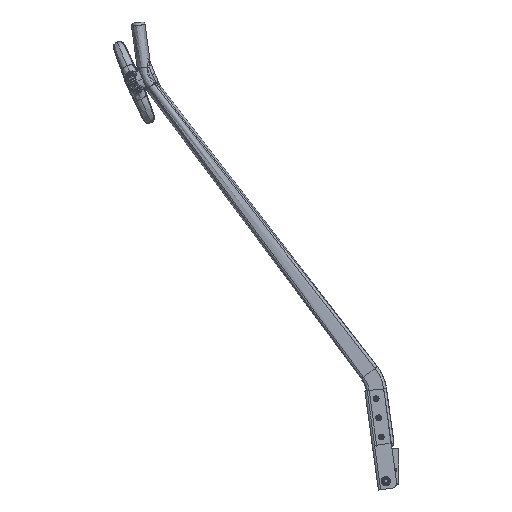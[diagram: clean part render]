
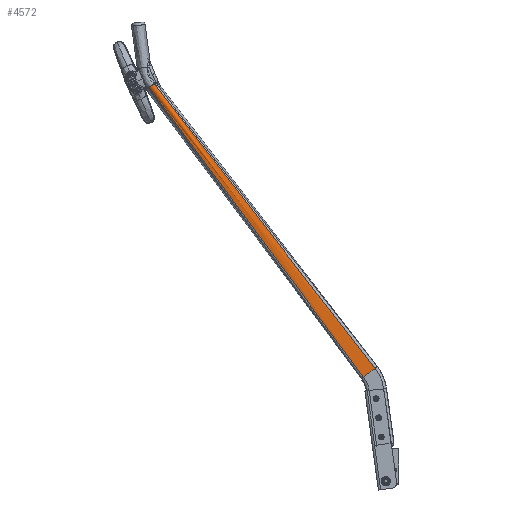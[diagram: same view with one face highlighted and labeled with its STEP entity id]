
A CAD part, left-side view. The second image highlights one B-rep face of the part: STEP entity #4572.
In plain terms, the highlighted free-form (B-spline) face has degree [3, 3] with [6, 5] control points.
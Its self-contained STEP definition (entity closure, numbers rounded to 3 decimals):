
#601 = CARTESIAN_POINT ( 'NONE',  ( 21.63, 427.979, -856.091 ) ) ;
#604 = B_SPLINE_SURFACE_WITH_KNOTS ( 'NONE', 3, 3, ( 
 ( #44025, #49540, #16858, #55046, #22340 ),
 ( #60542, #27834, #66059, #33316, #601 ),
 ( #38801, #6115, #44260, #11616, #49788 ),
 ( #17096, #55276, #22579, #60791, #28065 ),
 ( #66279, #33560, #838, #39023, #6353 ),
 ( #44503, #11844, #50014, #17331, #55525 ) ),
 .UNSPECIFIED., .F., .F., .F.,
 ( 4, 2, 4 ),
 ( 4, 1, 4 ),
 ( 0., 0.5, 1. ),
 ( 0., 0.56, 1. ),
 .UNSPECIFIED. ) ;
#742 = VECTOR ( 'NONE', #26256, 1000. ) ;
#838 = CARTESIAN_POINT ( 'NONE',  ( 25.896, 229.258, -530.558 ) ) ;
#4572 = ADVANCED_FACE ( 'NONE', ( #12753 ), #604, .T. ) ;
#6115 = CARTESIAN_POINT ( 'NONE',  ( 29.219, 110.1, -293.603 ) ) ;
#6353 = CARTESIAN_POINT ( 'NONE',  ( 21.63, 419.747, -860.849 ) ) ;
#9085 = B_SPLINE_CURVE_WITH_KNOTS ( 'NONE', 3,
 ( #49945, #12010, #55686, #22969, #61191 ),
 .UNSPECIFIED., .F., .F.,
 ( 4, 1, 4 ),
 ( 0., 0.56, 1. ),
 .UNSPECIFIED. ) ;
#11350 = CARTESIAN_POINT ( 'NONE',  ( 19.892, 429.858, -855.005 ) ) ;
#11377 = VERTEX_POINT ( 'NONE', #34695 ) ;
#11616 = CARTESIAN_POINT ( 'NONE',  ( 23.717, 369.013, -755.609 ) ) ;
#11844 = CARTESIAN_POINT ( 'NONE',  ( 28.646, 93.364, -303.275 ) ) ;
#12010 = CARTESIAN_POINT ( 'NONE',  ( 28.646, 93.364, -303.275 ) ) ;
#12753 = FACE_OUTER_BOUND ( 'NONE', #50817, .T. ) ;
#13594 = LINE ( 'NONE', #58978, #742 ) ;
#16858 = CARTESIAN_POINT ( 'NONE',  ( 24.888, 246.221, -520.755 ) ) ;
#17096 = CARTESIAN_POINT ( 'NONE',  ( 30.75, 28.262, -169.64 ) ) ;
#17331 = CARTESIAN_POINT ( 'NONE',  ( 21.418, 359.297, -761.224 ) ) ;
#18100 = EDGE_CURVE ( 'NONE', #34971, #31145, #25348, .T. ) ;
#21144 = B_SPLINE_CURVE_WITH_KNOTS ( 'NONE', 3,
 ( #50562, #56531, #57005, #24292, #62532 ),
 .UNSPECIFIED., .F., .F.,
 ( 4, 1, 4 ),
 ( 0., 0.56, 1. ),
 .UNSPECIFIED. ) ;
#21676 = CARTESIAN_POINT ( 'NONE',  ( 30.75, 18.988, -175. ) ) ;
#22340 = CARTESIAN_POINT ( 'NONE',  ( 19.891, 429.858, -855.006 ) ) ;
#22579 = CARTESIAN_POINT ( 'NONE',  ( 26.485, 232.724, -528.555 ) ) ;
#22969 = CARTESIAN_POINT ( 'NONE',  ( 21.418, 359.297, -761.224 ) ) ;
#23679 = VERTEX_POINT ( 'NONE', #21676 ) ;
#24292 = CARTESIAN_POINT ( 'NONE',  ( 21.418, 373.746, -752.873 ) ) ;
#25348 =( BOUNDED_CURVE ( )  B_SPLINE_CURVE ( 3, ( #58413, #30045, #63919, #31186 ),
 .UNSPECIFIED., .F., .T. ) 
 B_SPLINE_CURVE_WITH_KNOTS ( ( 4, 4 ),
 ( 2.662, 3.621 ),
 .UNSPECIFIED. ) 
 CURVE ( )  GEOMETRIC_REPRESENTATION_ITEM ( )  RATIONAL_B_SPLINE_CURVE ( ( 1., 0.925, 0.925, 1. ) ) 
 REPRESENTATION_ITEM ( '' )  );
#26256 = DIRECTION ( 'NONE',  ( 0., 0.866, 0.5 ) ) ;
#27834 = CARTESIAN_POINT ( 'NONE',  ( 29.008, 114.316, -291.167 ) ) ;
#28065 = CARTESIAN_POINT ( 'NONE',  ( 22.5, 421.805, -859.66 ) ) ;
#28541 = EDGE_CURVE ( 'NONE', #23679, #11377, #13594, .T. ) ;
#30045 = CARTESIAN_POINT ( 'NONE',  ( 23.44, 426.024, -857.221 ) ) ;
#31145 = VERTEX_POINT ( 'NONE', #61299 ) ;
#31186 = CARTESIAN_POINT ( 'NONE',  ( 19.892, 417.868, -861.935 ) ) ;
#33316 = CARTESIAN_POINT ( 'NONE',  ( 22.934, 371.501, -754.171 ) ) ;
#33560 = CARTESIAN_POINT ( 'NONE',  ( 29.008, 97.442, -300.918 ) ) ;
#34695 = CARTESIAN_POINT ( 'NONE',  ( 30.75, 46.81, -158.921 ) ) ;
#34971 = VERTEX_POINT ( 'NONE', #11350 ) ;
#37385 = EDGE_CURVE ( 'NONE', #11377, #34971, #21144, .T. ) ;
#38801 = CARTESIAN_POINT ( 'NONE',  ( 30.75, 37.536, -164.281 ) ) ;
#39023 = CARTESIAN_POINT ( 'NONE',  ( 22.934, 361.542, -759.927 ) ) ;
#39705 = ORIENTED_EDGE ( 'NONE', *, *, #49966, .T. ) ;
#43722 = ORIENTED_EDGE ( 'NONE', *, *, #37385, .F. ) ;
#44025 = CARTESIAN_POINT ( 'NONE',  ( 30.75, 46.81, -158.921 ) ) ;
#44260 = CARTESIAN_POINT ( 'NONE',  ( 26.485, 239.677, -524.537 ) ) ;
#44503 = CARTESIAN_POINT ( 'NONE',  ( 30.75, 18.988, -175. ) ) ;
#49540 = CARTESIAN_POINT ( 'NONE',  ( 28.646, 118.394, -288.81 ) ) ;
#49788 = CARTESIAN_POINT ( 'NONE',  ( 22.5, 425.921, -857.281 ) ) ;
#49945 = CARTESIAN_POINT ( 'NONE',  ( 30.75, 18.988, -175. ) ) ;
#49966 = EDGE_CURVE ( 'NONE', #23679, #31145, #9085, .T. ) ;
#50014 = CARTESIAN_POINT ( 'NONE',  ( 24.888, 226.18, -532.337 ) ) ;
#50562 = CARTESIAN_POINT ( 'NONE',  ( 30.75, 46.81, -158.921 ) ) ;
#50817 = EDGE_LOOP ( 'NONE', ( #70017, #39705, #64123, #43722 ) ) ;
#55046 = CARTESIAN_POINT ( 'NONE',  ( 21.418, 373.746, -752.873 ) ) ;
#55276 = CARTESIAN_POINT ( 'NONE',  ( 29.219, 101.659, -298.482 ) ) ;
#55525 = CARTESIAN_POINT ( 'NONE',  ( 19.891, 417.868, -861.935 ) ) ;
#55686 = CARTESIAN_POINT ( 'NONE',  ( 24.888, 226.18, -532.337 ) ) ;
#56531 = CARTESIAN_POINT ( 'NONE',  ( 28.646, 118.394, -288.81 ) ) ;
#57005 = CARTESIAN_POINT ( 'NONE',  ( 24.888, 246.221, -520.755 ) ) ;
#58413 = CARTESIAN_POINT ( 'NONE',  ( 19.892, 429.858, -855.005 ) ) ;
#58978 = CARTESIAN_POINT ( 'NONE',  ( 30.75, 18.988, -175. ) ) ;
#60542 = CARTESIAN_POINT ( 'NONE',  ( 30.75, 42.173, -161.601 ) ) ;
#60791 = CARTESIAN_POINT ( 'NONE',  ( 23.717, 364.03, -758.489 ) ) ;
#61191 = CARTESIAN_POINT ( 'NONE',  ( 19.892, 417.868, -861.935 ) ) ;
#61299 = CARTESIAN_POINT ( 'NONE',  ( 19.892, 417.868, -861.935 ) ) ;
#62532 = CARTESIAN_POINT ( 'NONE',  ( 19.892, 429.858, -855.005 ) ) ;
#63919 = CARTESIAN_POINT ( 'NONE',  ( 23.44, 421.702, -859.719 ) ) ;
#64123 = ORIENTED_EDGE ( 'NONE', *, *, #18100, .F. ) ;
#66059 = CARTESIAN_POINT ( 'NONE',  ( 25.896, 243.143, -522.534 ) ) ;
#66279 = CARTESIAN_POINT ( 'NONE',  ( 30.75, 23.625, -172.32 ) ) ;
#70017 = ORIENTED_EDGE ( 'NONE', *, *, #28541, .F. ) ;
